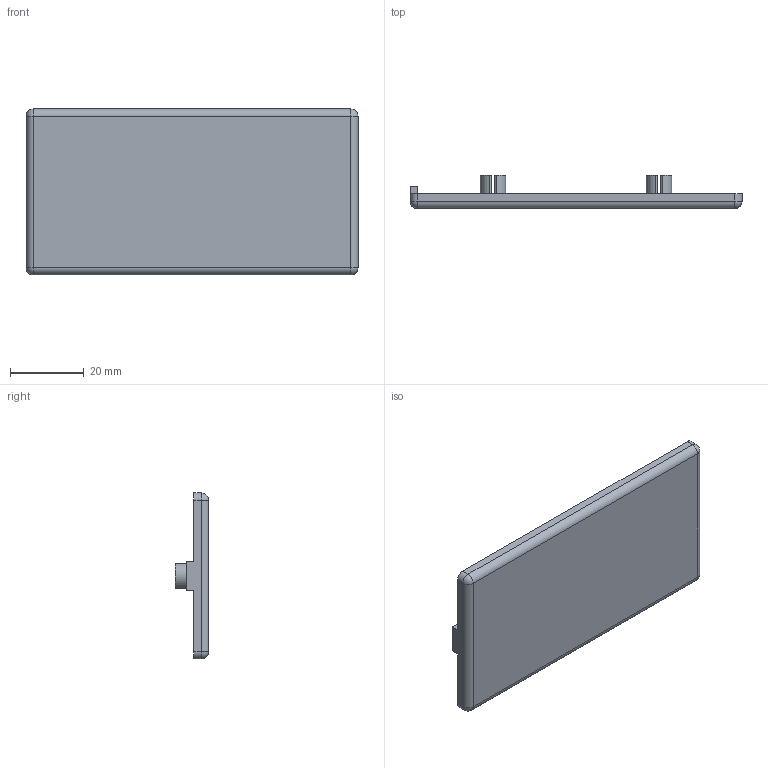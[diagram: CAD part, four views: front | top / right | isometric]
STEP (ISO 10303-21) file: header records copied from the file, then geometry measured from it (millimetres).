
FILE_DESCRIPTION (( 'STEP AP214' ), '1' );
FILE_NAME ('4010.STEP', '2017-08-10T06:15:56', ( '' ), ( '' ), 'SwSTEP 2.0', 'SolidWorks 2014', '' );
FILE_SCHEMA (( 'AUTOMOTIVE_DESIGN' ));
Length unit declared in the file: millimetre
Products named in the file (2): 4010
Bounding box: 90 x 9 x 45 mm (x, y, z)
Volume: 9178.4 mm3; surface area: 9977.4 mm2
Topology: 1 solids, 1 shells, 70 faces, 184 edges, 116 vertices
Faces by surface type: cylinder 40, plane 26, sphere 4
Entity records: 2197 total; most frequent: DIRECTION 404, CARTESIAN_POINT 368, ORIENTED_EDGE 360, EDGE_CURVE 180, AXIS2_PLACEMENT_3D 152, VERTEX_POINT 116, VECTOR 100, LINE 100
